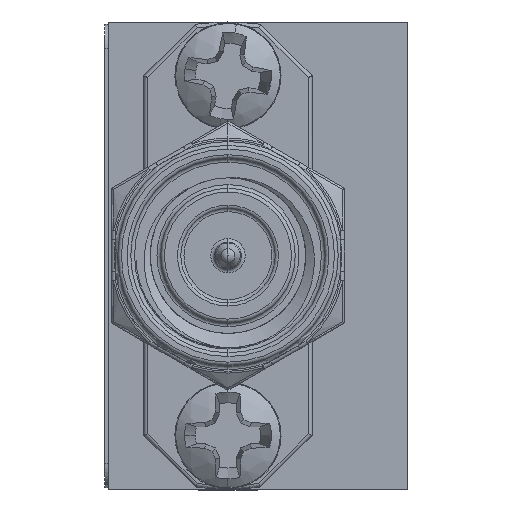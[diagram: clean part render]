
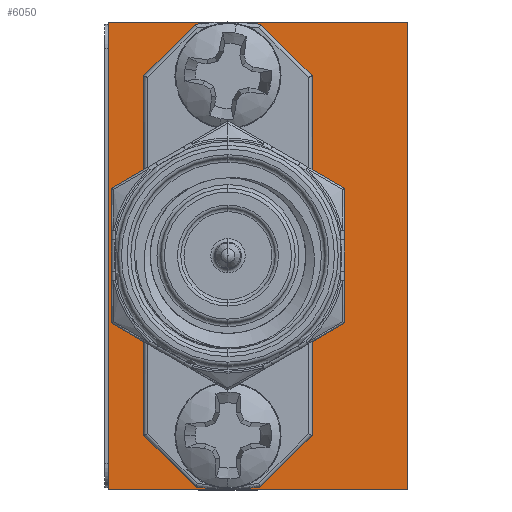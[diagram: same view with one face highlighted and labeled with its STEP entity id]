
A CAD part, left-side view. The second image highlights one B-rep face of the part: STEP entity #6050.
In plain terms, the highlighted planar face has unit normal (-1, 0, 0).
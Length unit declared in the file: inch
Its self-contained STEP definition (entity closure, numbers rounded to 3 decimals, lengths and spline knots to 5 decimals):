
#549 = AXIS2_PLACEMENT_3D ( 'NONE', #36842, #13725, #25378 ) ;
#886 = CARTESIAN_POINT ( 'NONE',  ( -0.83409, 0.43849, 0.02357 ) ) ;
#1505 = ORIENTED_EDGE ( 'NONE', *, *, #13479, .F. ) ;
#2017 = DIRECTION ( 'NONE',  ( 0., 0., 1. ) ) ;
#2143 = FACE_BOUND ( 'NONE', #48485, .T. ) ;
#3296 = CIRCLE ( 'NONE', #6649, 0.1 ) ;
#3516 = CARTESIAN_POINT ( 'NONE',  ( -0.83409, 0.05849, -0.38893 ) ) ;
#3973 = AXIS2_PLACEMENT_3D ( 'NONE', #33647, #7007, #38001 ) ;
#4422 = EDGE_LOOP ( 'NONE', ( #42247, #43898, #30082, #12533 ) ) ;
#4758 = AXIS2_PLACEMENT_3D ( 'NONE', #18079, #36670, #45040 ) ;
#5892 = CIRCLE ( 'NONE', #24502, 0.043 ) ;
#6050 = ADVANCED_FACE ( 'NONE', ( #40992, #2143, #6698, #21150 ), #32855, .F. ) ;
#6649 = AXIS2_PLACEMENT_3D ( 'NONE', #32999, #21530, #2017 ) ;
#6698 = FACE_BOUND ( 'NONE', #29036, .T. ) ;
#6911 = EDGE_CURVE ( 'NONE', #16358, #27078, #20012, .T. ) ;
#7007 = DIRECTION ( 'NONE',  ( -1., 0., 0. ) ) ;
#7602 = EDGE_CURVE ( 'NONE', #16358, #46401, #38179, .T. ) ;
#7752 = ORIENTED_EDGE ( 'NONE', *, *, #39663, .F. ) ;
#8903 = ORIENTED_EDGE ( 'NONE', *, *, #8930, .F. ) ;
#8930 = EDGE_CURVE ( 'NONE', #43532, #39552, #33135, .T. ) ;
#10482 = ORIENTED_EDGE ( 'NONE', *, *, #28277, .F. ) ;
#10696 = CARTESIAN_POINT ( 'NONE',  ( -0.83409, 0.05849, -0.09093 ) ) ;
#11106 = DIRECTION ( 'NONE',  ( 0., 0., 1. ) ) ;
#12533 = ORIENTED_EDGE ( 'NONE', *, *, #48891, .F. ) ;
#13174 = CARTESIAN_POINT ( 'NONE',  ( -0.83409, 0.05849, -0.52893 ) ) ;
#13479 = EDGE_CURVE ( 'NONE', #43371, #34004, #45313, .T. ) ;
#13725 = DIRECTION ( 'NONE',  ( -1., 0., 0. ) ) ;
#14397 = CARTESIAN_POINT ( 'NONE',  ( -0.83409, 0.05849, -0.52893 ) ) ;
#14538 = CARTESIAN_POINT ( 'NONE',  ( -0.83409, -0.18151, -0.60143 ) ) ;
#15011 = DIRECTION ( 'NONE',  ( 0., 0., 1. ) ) ;
#15308 = CARTESIAN_POINT ( 'NONE',  ( -0.83409, 0.05849, -0.00493 ) ) ;
#16173 = CARTESIAN_POINT ( 'NONE',  ( -0.83409, -0.18151, 0.02357 ) ) ;
#16358 = VERTEX_POINT ( 'NONE', #18622 ) ;
#16726 = DIRECTION ( 'NONE',  ( -1., 0., 0. ) ) ;
#17531 = EDGE_CURVE ( 'NONE', #30648, #40038, #46810, .T. ) ;
#18079 = CARTESIAN_POINT ( 'NONE',  ( -0.83409, 0.43849, 0.02357 ) ) ;
#18622 = CARTESIAN_POINT ( 'NONE',  ( -0.83409, 0.21849, -0.60143 ) ) ;
#18776 = DIRECTION ( 'NONE',  ( -1., 0., 0. ) ) ;
#19590 = CARTESIAN_POINT ( 'NONE',  ( -0.83409, 0.21849, -0.60143 ) ) ;
#20012 = LINE ( 'NONE', #35543, #42123 ) ;
#20867 = CARTESIAN_POINT ( 'NONE',  ( -0.83409, 0.05849, -0.18893 ) ) ;
#21150 = FACE_OUTER_BOUND ( 'NONE', #4422, .T. ) ;
#21530 = DIRECTION ( 'NONE',  ( -1., 0., 0. ) ) ;
#21700 = VECTOR ( 'NONE', #35670, 39.37008 ) ;
#23554 = LINE ( 'NONE', #16173, #26303 ) ;
#24082 = DIRECTION ( 'NONE',  ( 0., -1., 0. ) ) ;
#24502 = AXIS2_PLACEMENT_3D ( 'NONE', #26407, #18776, #34290 ) ;
#25378 = DIRECTION ( 'NONE',  ( 0., 0., 1. ) ) ;
#26303 = VECTOR ( 'NONE', #42903, 39.37008 ) ;
#26407 = CARTESIAN_POINT ( 'NONE',  ( -0.83409, 0.05849, -0.04793 ) ) ;
#26705 = VECTOR ( 'NONE', #15011, 39.37008 ) ;
#27078 = VERTEX_POINT ( 'NONE', #14538 ) ;
#28277 = EDGE_CURVE ( 'NONE', #40038, #30648, #3296, .T. ) ;
#29036 = EDGE_LOOP ( 'NONE', ( #37535, #10482 ) ) ;
#29529 = CARTESIAN_POINT ( 'NONE',  ( -0.83409, 0.05849, -0.57193 ) ) ;
#29879 = AXIS2_PLACEMENT_3D ( 'NONE', #14397, #41846, #11106 ) ;
#30044 = CARTESIAN_POINT ( 'NONE',  ( -0.83409, 0.05849, -0.48593 ) ) ;
#30082 = ORIENTED_EDGE ( 'NONE', *, *, #33309, .T. ) ;
#30648 = VERTEX_POINT ( 'NONE', #20867 ) ;
#32855 = PLANE ( 'NONE',  #4758 ) ;
#32999 = CARTESIAN_POINT ( 'NONE',  ( -0.83409, 0.05849, -0.28893 ) ) ;
#33135 = CIRCLE ( 'NONE', #3973, 0.043 ) ;
#33309 = EDGE_CURVE ( 'NONE', #27078, #40565, #23554, .T. ) ;
#33647 = CARTESIAN_POINT ( 'NONE',  ( -0.83409, 0.05849, -0.04793 ) ) ;
#34004 = VERTEX_POINT ( 'NONE', #30044 ) ;
#34290 = DIRECTION ( 'NONE',  ( 0., 0., 1. ) ) ;
#34778 = AXIS2_PLACEMENT_3D ( 'NONE', #13174, #16726, #35578 ) ;
#35415 = LINE ( 'NONE', #886, #21700 ) ;
#35543 = CARTESIAN_POINT ( 'NONE',  ( -0.83409, 0.43849, -0.60143 ) ) ;
#35578 = DIRECTION ( 'NONE',  ( 0., 0., 1. ) ) ;
#35670 = DIRECTION ( 'NONE',  ( 0., -1., 0. ) ) ;
#36178 = CARTESIAN_POINT ( 'NONE',  ( -0.83409, -0.18151, 0.02357 ) ) ;
#36670 = DIRECTION ( 'NONE',  ( 1., 0., 0. ) ) ;
#36842 = CARTESIAN_POINT ( 'NONE',  ( -0.83409, 0.05849, -0.28893 ) ) ;
#37535 = ORIENTED_EDGE ( 'NONE', *, *, #17531, .F. ) ;
#37955 = EDGE_CURVE ( 'NONE', #34004, #43371, #44474, .T. ) ;
#38001 = DIRECTION ( 'NONE',  ( 0., 0., 1. ) ) ;
#38179 = LINE ( 'NONE', #19590, #26705 ) ;
#39552 = VERTEX_POINT ( 'NONE', #10696 ) ;
#39663 = EDGE_CURVE ( 'NONE', #39552, #43532, #5892, .T. ) ;
#40038 = VERTEX_POINT ( 'NONE', #3516 ) ;
#40151 = CARTESIAN_POINT ( 'NONE',  ( -0.83409, 0.21849, 0.02357 ) ) ;
#40565 = VERTEX_POINT ( 'NONE', #36178 ) ;
#40992 = FACE_BOUND ( 'NONE', #48022, .T. ) ;
#41372 = ORIENTED_EDGE ( 'NONE', *, *, #37955, .F. ) ;
#41846 = DIRECTION ( 'NONE',  ( -1., 0., 0. ) ) ;
#42123 = VECTOR ( 'NONE', #24082, 39.37008 ) ;
#42247 = ORIENTED_EDGE ( 'NONE', *, *, #7602, .F. ) ;
#42903 = DIRECTION ( 'NONE',  ( 0., 0., 1. ) ) ;
#43371 = VERTEX_POINT ( 'NONE', #29529 ) ;
#43532 = VERTEX_POINT ( 'NONE', #15308 ) ;
#43898 = ORIENTED_EDGE ( 'NONE', *, *, #6911, .T. ) ;
#44474 = CIRCLE ( 'NONE', #29879, 0.043 ) ;
#45040 = DIRECTION ( 'NONE',  ( 0., 0., -1. ) ) ;
#45313 = CIRCLE ( 'NONE', #34778, 0.043 ) ;
#46401 = VERTEX_POINT ( 'NONE', #40151 ) ;
#46810 = CIRCLE ( 'NONE', #549, 0.1 ) ;
#48022 = EDGE_LOOP ( 'NONE', ( #41372, #1505 ) ) ;
#48485 = EDGE_LOOP ( 'NONE', ( #8903, #7752 ) ) ;
#48891 = EDGE_CURVE ( 'NONE', #46401, #40565, #35415, .T. ) ;
